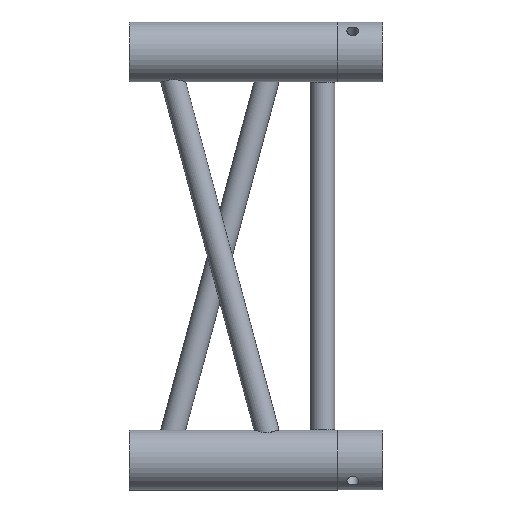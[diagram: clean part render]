
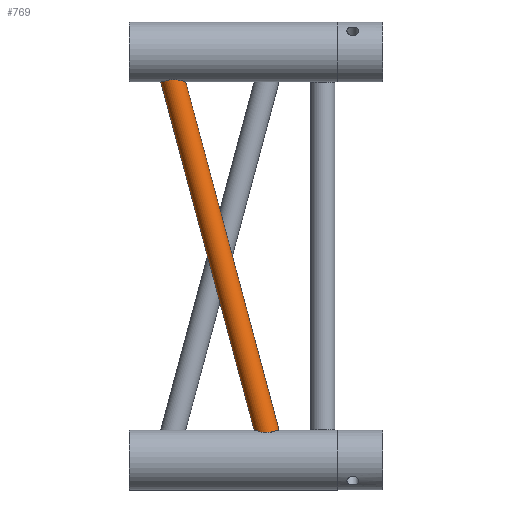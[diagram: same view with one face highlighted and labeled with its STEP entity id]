
A CAD part, front view. The second image highlights one B-rep face of the part: STEP entity #769.
In plain terms, the highlighted cylindrical face has radius 10 mm (diameter 20 mm), a full revolution.
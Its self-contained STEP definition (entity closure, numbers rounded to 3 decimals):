
#26=B_SPLINE_CURVE_WITH_KNOTS('',3,(#1301,#1302,#1303,#1304,#1305,#1306,
#1307,#1308,#1309,#1310,#1311,#1312,#1313,#1314,#1315,#1316,#1317,#1318,
#1319,#1320,#1321,#1322,#1323),.UNSPECIFIED.,.F.,.F.,(4,3,2,2,2,2,2,2,2,
2,4),(5.968,6.21,6.622,7.035,
7.417,7.799,8.181,8.563,8.976,
9.388,9.63),.UNSPECIFIED.);
#27=B_SPLINE_CURVE_WITH_KNOTS('',3,(#1327,#1328,#1329,#1330,#1331,#1332,
#1333,#1334,#1335,#1336,#1337,#1338,#1339,#1340,#1341,#1342,#1343,#1344,
#1345,#1346,#1347,#1348,#1349),.UNSPECIFIED.,.F.,.F.,(4,3,2,2,2,2,2,2,2,
2,4),(5.968,6.21,6.622,7.035,
7.417,7.799,8.181,8.563,8.975,
9.388,9.63),.UNSPECIFIED.);
#52=FACE_BOUND('',#203,.T.);
#100=CYLINDRICAL_SURFACE('',#851,10.);
#140=FACE_OUTER_BOUND('',#202,.T.);
#202=EDGE_LOOP('',(#538,#539));
#203=EDGE_LOOP('',(#540,#541));
#294=CIRCLE('',#852,10.);
#295=CIRCLE('',#853,10.);
#354=VERTEX_POINT('',#1299);
#355=VERTEX_POINT('',#1300);
#356=VERTEX_POINT('',#1325);
#357=VERTEX_POINT('',#1326);
#430=EDGE_CURVE('',#354,#355,#26,.T.);
#431=EDGE_CURVE('',#355,#354,#294,.T.);
#432=EDGE_CURVE('',#356,#357,#27,.T.);
#433=EDGE_CURVE('',#357,#356,#295,.T.);
#538=ORIENTED_EDGE('',*,*,#430,.F.);
#539=ORIENTED_EDGE('',*,*,#431,.F.);
#540=ORIENTED_EDGE('',*,*,#432,.F.);
#541=ORIENTED_EDGE('',*,*,#433,.F.);
#769=ADVANCED_FACE('',(#140,#52),#100,.T.);
#851=AXIS2_PLACEMENT_3D('',#1298,#1015,#1016);
#852=AXIS2_PLACEMENT_3D('',#1324,#1017,#1018);
#853=AXIS2_PLACEMENT_3D('',#1350,#1019,#1020);
#1015=DIRECTION('center_axis',(-0.259,0.,
0.966));
#1016=DIRECTION('ref_axis',(-0.966,0.,-0.259));
#1017=DIRECTION('center_axis',(-0.259,0.,
0.966));
#1018=DIRECTION('ref_axis',(-0.966,0.,-0.259));
#1019=DIRECTION('center_axis',(0.259,0.,-0.966));
#1020=DIRECTION('ref_axis',(-0.966,0.,-0.259));
#1298=CARTESIAN_POINT('Origin',(6.674,-267.925,53.89));
#1299=CARTESIAN_POINT('',(-74.486,-277.628,347.435));
#1300=CARTESIAN_POINT('',(-74.486,-258.222,347.435));
#1301=CARTESIAN_POINT('Ctrl Pts',(-74.486,-277.628,347.435));
#1302=CARTESIAN_POINT('Ctrl Pts',(-73.665,-277.831,347.521));
#1303=CARTESIAN_POINT('Ctrl Pts',(-72.823,-277.925,347.563));
#1304=CARTESIAN_POINT('Ctrl Pts',(-72.015,-277.925,347.563));
#1305=CARTESIAN_POINT('Ctrl Pts',(-70.641,-277.925,347.563));
#1306=CARTESIAN_POINT('Ctrl Pts',(-69.187,-277.648,347.437));
#1307=CARTESIAN_POINT('Ctrl Pts',(-66.5,-276.581,347.015));
#1308=CARTESIAN_POINT('Ctrl Pts',(-65.265,-275.792,346.726));
#1309=CARTESIAN_POINT('Ctrl Pts',(-63.36,-274.025,346.215));
#1310=CARTESIAN_POINT('Ctrl Pts',(-62.529,-272.944,345.954));
#1311=CARTESIAN_POINT('Ctrl Pts',(-61.399,-270.532,345.582));
#1312=CARTESIAN_POINT('Ctrl Pts',(-61.103,-269.198,345.475));
#1313=CARTESIAN_POINT('Ctrl Pts',(-61.103,-266.651,345.475));
#1314=CARTESIAN_POINT('Ctrl Pts',(-61.399,-265.317,345.582));
#1315=CARTESIAN_POINT('Ctrl Pts',(-62.529,-262.905,345.954));
#1316=CARTESIAN_POINT('Ctrl Pts',(-63.36,-261.824,346.215));
#1317=CARTESIAN_POINT('Ctrl Pts',(-65.265,-260.057,346.726));
#1318=CARTESIAN_POINT('Ctrl Pts',(-66.5,-259.268,347.015));
#1319=CARTESIAN_POINT('Ctrl Pts',(-69.187,-258.201,347.437));
#1320=CARTESIAN_POINT('Ctrl Pts',(-70.641,-257.925,347.563));
#1321=CARTESIAN_POINT('Ctrl Pts',(-72.823,-257.925,347.563));
#1322=CARTESIAN_POINT('Ctrl Pts',(-73.665,-258.018,347.521));
#1323=CARTESIAN_POINT('Ctrl Pts',(-74.486,-258.222,347.435));
#1324=CARTESIAN_POINT('Origin',(-72.149,-267.925,348.061));
#1325=CARTESIAN_POINT('',(9.011,-277.628,54.516));
#1326=CARTESIAN_POINT('',(9.011,-258.222,54.516));
#1327=CARTESIAN_POINT('Ctrl Pts',(9.011,-277.628,54.516));
#1328=CARTESIAN_POINT('Ctrl Pts',(8.19,-277.831,54.43));
#1329=CARTESIAN_POINT('Ctrl Pts',(7.348,-277.925,54.388));
#1330=CARTESIAN_POINT('Ctrl Pts',(6.54,-277.925,54.388));
#1331=CARTESIAN_POINT('Ctrl Pts',(5.166,-277.925,54.388));
#1332=CARTESIAN_POINT('Ctrl Pts',(3.712,-277.648,54.514));
#1333=CARTESIAN_POINT('Ctrl Pts',(1.025,-276.581,54.936));
#1334=CARTESIAN_POINT('Ctrl Pts',(-0.21,-275.792,55.225));
#1335=CARTESIAN_POINT('Ctrl Pts',(-2.115,-274.025,55.736));
#1336=CARTESIAN_POINT('Ctrl Pts',(-2.946,-272.944,55.997));
#1337=CARTESIAN_POINT('Ctrl Pts',(-4.076,-270.532,56.369));
#1338=CARTESIAN_POINT('Ctrl Pts',(-4.372,-269.198,56.475));
#1339=CARTESIAN_POINT('Ctrl Pts',(-4.372,-266.651,56.475));
#1340=CARTESIAN_POINT('Ctrl Pts',(-4.076,-265.317,56.369));
#1341=CARTESIAN_POINT('Ctrl Pts',(-2.946,-262.905,55.997));
#1342=CARTESIAN_POINT('Ctrl Pts',(-2.115,-261.824,55.736));
#1343=CARTESIAN_POINT('Ctrl Pts',(-0.21,-260.057,
55.225));
#1344=CARTESIAN_POINT('Ctrl Pts',(1.025,-259.268,54.936));
#1345=CARTESIAN_POINT('Ctrl Pts',(3.712,-258.201,54.514));
#1346=CARTESIAN_POINT('Ctrl Pts',(5.166,-257.925,54.388));
#1347=CARTESIAN_POINT('Ctrl Pts',(7.348,-257.925,54.388));
#1348=CARTESIAN_POINT('Ctrl Pts',(8.19,-258.018,54.43));
#1349=CARTESIAN_POINT('Ctrl Pts',(9.011,-258.222,54.516));
#1350=CARTESIAN_POINT('Origin',(6.674,-267.925,53.89));
